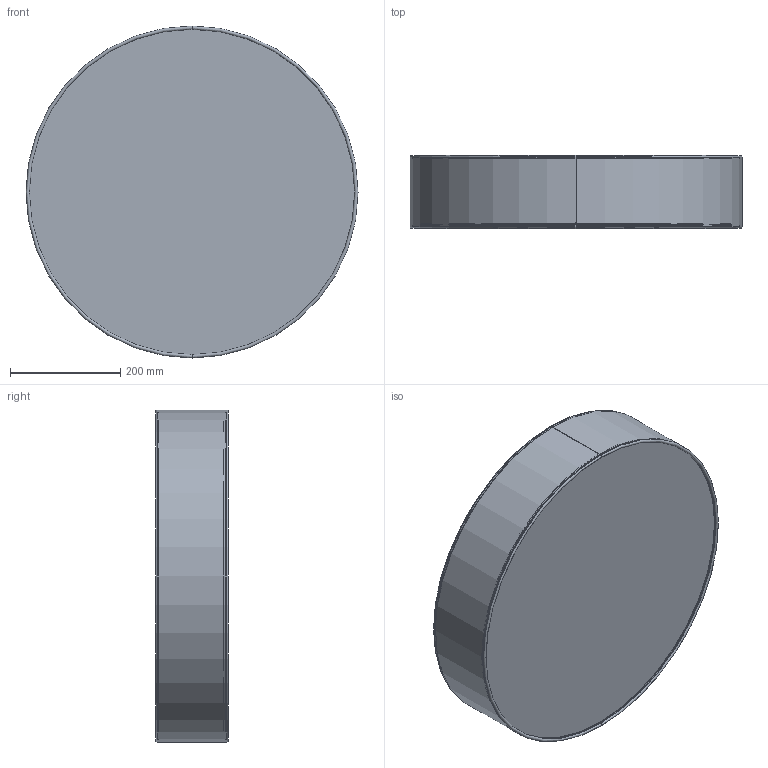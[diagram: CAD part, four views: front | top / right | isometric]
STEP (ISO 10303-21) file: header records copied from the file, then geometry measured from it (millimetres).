
FILE_DESCRIPTION (( 'STEP AP203' ), '1' );
FILE_NAME ('PLTES060COXXXXX-PER 3D.STEP', '2025-06-25T10:25:40', ( '' ), ( '' ), 'SwSTEP 2.0', 'SolidWorks 2024', '' );
FILE_SCHEMA (( 'CONFIG_CONTROL_DESIGN' ));
Length unit declared in the file: millimetre
Products named in the file (4): RIVESTIMENTO PARALUME Ø600; TSPTESSYC60DWBC; PLTES060COXXXXX-PER 3D; PSPPLTESSY60H13COT
Assembly tree (3 placements, depth 3):
  PLTES060COXXXXX-PER 3D
    PSPPLTESSY60H13COT
      RIVESTIMENTO PARALUME Ø600
    TSPTESSYC60DWBC
Bounding box: 602 x 132 x 602 mm (x, y, z)
Volume: 420365.2 mm3; surface area: 1638641.2 mm2
Topology: 3 solids, 3 shells, 46 faces, 90 edges, 48 vertices
Faces by surface type: torus 28, cylinder 8, cone 6, plane 4
Entity records: 1606 total; most frequent: DIRECTION 272, CARTESIAN_POINT 191, ORIENTED_EDGE 180, AXIS2_PLACEMENT_3D 129, EDGE_CURVE 90, CIRCLE 76, EDGE_LOOP 48, VERTEX_POINT 48
